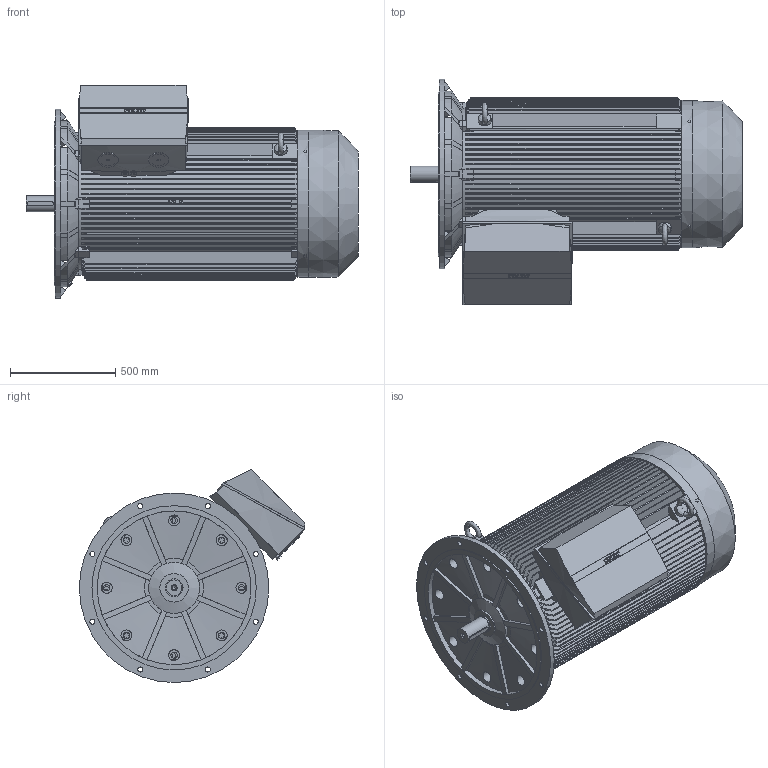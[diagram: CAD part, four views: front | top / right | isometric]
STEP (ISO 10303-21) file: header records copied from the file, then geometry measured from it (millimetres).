
FILE_DESCRIPTION (( 'STEP AP214' ), '1' );
FILE_NAME ('7RN355L02E34 IM3021_Rev.1A.STEP', '2018-11-06T07:28:22', ( 'rbc_ict' ), ( '' ), 'SwSTEP 2.0', 'SolidWorks 2015', '' );
FILE_SCHEMA (( 'AUTOMOTIVE_DESIGN' ));
Length unit declared in the file: millimetre
Products named in the file (1): 7RN355L02E34 IM3021_Rev.1A
Bounding box: 1577 x 1070.13 x 1012.15 mm (x, y, z)
Volume: 545493936.4 mm3; surface area: 12537948.8 mm2
Topology: 1 solids, 4 shells, 1203 faces, 3388 edges, 2235 vertices
Faces by surface type: plane 749, bspline 222, cylinder 213, cone 19
Full cylindrical faces by diameter (mm): 12 x4, 15 x2, 20 x2, 23 x2, 24 x9, 30 x8, 31 x2, 52 x8, 60 x2, 75 x1, 76 x2, 85 x1, 97 x2, 135 x1, 700 x1, 730 x1, 780 x1, 900 x1
Entity records: 62595 total; most frequent: CARTESIAN_POINT 21694, ORIENTED_EDGE 6610, DIRECTION 4869, EDGE_CURVE 3305, VERTEX_POINT 2211, LINE 1933, VECTOR 1933, AXIS2_PLACEMENT_3D 1468
